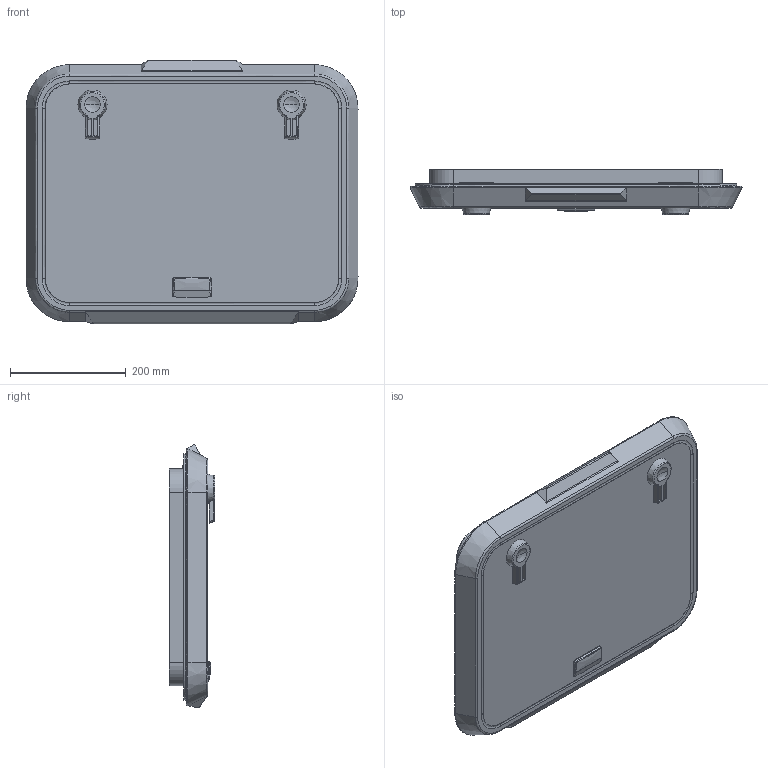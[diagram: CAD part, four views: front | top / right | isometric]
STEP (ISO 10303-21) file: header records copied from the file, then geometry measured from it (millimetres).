
FILE_DESCRIPTION((''),'2;1');
FILE_NAME('LEWMAR_HATCH_OCEAN_50_FLANGE_ASM','2008-02-21T',('skennedy'),(''),'PRO/ENGINEER BY PARAMETRIC TECHNOLOGY CORPORATION, 2007030','PRO/ENGINEER BY PARAMETRIC TECHNOLOGY CORPORATION, 2007030','');
FILE_SCHEMA(('CONFIG_CONTROL_DESIGN'));
Length unit declared in the file: millimetre
Products named in the file (6): OCEAN_ACRYLIC_50; OCEAN_LARGE_HINGE_LEVER_1; FRAME_50_FLANGE; OCEAN_LARGE_HANDLE_2; OCEAN_LARGE_HANDLE_1; LEWMAR_HATCH_OCEAN_50_FLANGE_ASM
Assembly tree (5 placements, depth 2):
  LEWMAR_HATCH_OCEAN_50_FLANGE_ASM
    OCEAN_ACRYLIC_50
    OCEAN_LARGE_HINGE_LEVER_1
    FRAME_50_FLANGE
    OCEAN_LARGE_HANDLE_2
    OCEAN_LARGE_HANDLE_1
Bounding box: 573.99 x 79 x 455.35 mm (x, y, z)
Volume: 2381024.2 mm3; surface area: 912594.8 mm2
Topology: 6 solids, 7 shells, 771 faces, 1868 edges, 1116 vertices
Faces by surface type: bspline 279, plane 240, cylinder 158, cone 33, torus 32, sphere 22, extrusion 7
Entity records: 31018 total; most frequent: CARTESIAN_POINT 14622, ORIENTED_EDGE 3712, DIRECTION 2755, EDGE_CURVE 1864, VERTEX_POINT 1116, AXIS2_PLACEMENT_3D 934, VECTOR 887, LINE 880
